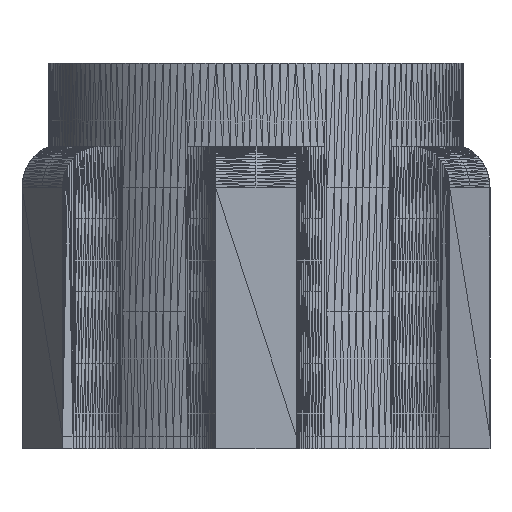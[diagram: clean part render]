
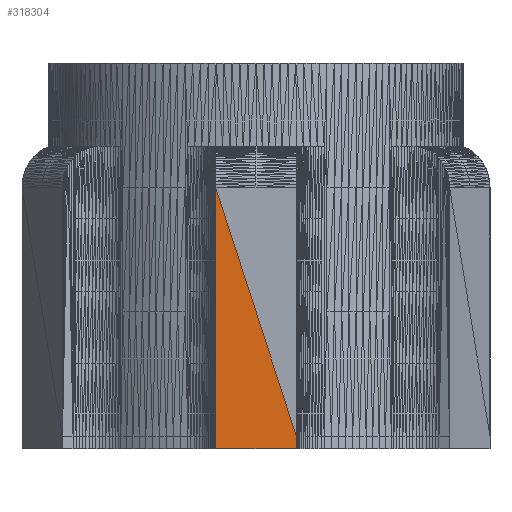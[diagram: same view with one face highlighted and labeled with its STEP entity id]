
A CAD part, left-side view. The second image highlights one B-rep face of the part: STEP entity #318304.
In plain terms, the highlighted planar face has unit normal (-1, 0, 0).
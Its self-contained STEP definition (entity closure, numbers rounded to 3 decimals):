
#734=PLANE('',#347054);
#29460=FACE_OUTER_BOUND('',#58190,.T.);
#58190=EDGE_LOOP('',(#233523,#233524,#233525,#233526,#233527));
#86962=LINE('',#477429,#130306);
#87863=LINE('',#479231,#131207);
#87873=LINE('',#479250,#131217);
#87880=LINE('',#479265,#131224);
#87881=LINE('',#479266,#131225);
#130306=VECTOR('',#376359,10.);
#131207=VECTOR('',#378154,10.);
#131217=VECTOR('',#378174,10.);
#131224=VECTOR('',#378189,10.);
#131225=VECTOR('',#378190,10.);
#173417=VERTEX_POINT('',#477426);
#173418=VERTEX_POINT('',#477428);
#173868=VERTEX_POINT('',#479218);
#173872=VERTEX_POINT('',#479229);
#173880=VERTEX_POINT('',#479264);
#188298=EDGE_CURVE('',#173417,#173418,#86962,.T.);
#189199=EDGE_CURVE('',#173872,#173868,#87863,.T.);
#189209=EDGE_CURVE('',#173872,#173418,#87873,.T.);
#189216=EDGE_CURVE('',#173880,#173868,#87880,.T.);
#189217=EDGE_CURVE('',#173880,#173417,#87881,.T.);
#233523=ORIENTED_EDGE('',*,*,#189216,.T.);
#233524=ORIENTED_EDGE('',*,*,#189199,.F.);
#233525=ORIENTED_EDGE('',*,*,#189209,.T.);
#233526=ORIENTED_EDGE('',*,*,#188298,.F.);
#233527=ORIENTED_EDGE('',*,*,#189217,.F.);
#318304=ADVANCED_FACE('',(#29460),#734,.T.);
#347054=AXIS2_PLACEMENT_3D('',#479263,#378187,#378188);
#376359=DIRECTION('',(0.,1.,0.));
#378154=DIRECTION('',(0.,0.,1.));
#378174=DIRECTION('',(0.,0.,-1.));
#378187=DIRECTION('center_axis',(-1.,0.,0.));
#378188=DIRECTION('ref_axis',(0.,0.,1.));
#378189=DIRECTION('',(0.,0.31,0.951));
#378190=DIRECTION('',(0.,0.,-1.));
#477426=CARTESIAN_POINT('',(-11.921,-1.953,-5.6));
#477428=CARTESIAN_POINT('',(-11.921,1.953,-5.6));
#477429=CARTESIAN_POINT('',(-11.921,-1.953,-5.6));
#479218=CARTESIAN_POINT('',(-11.921,1.953,7.));
#479229=CARTESIAN_POINT('',(-11.921,1.953,-5.));
#479231=CARTESIAN_POINT('',(-11.921,1.953,-5.));
#479250=CARTESIAN_POINT('',(-11.921,1.953,-5.));
#479263=CARTESIAN_POINT('Origin',(-11.921,1.953,-5.));
#479264=CARTESIAN_POINT('',(-11.921,-1.953,-5.));
#479265=CARTESIAN_POINT('',(-11.921,-1.953,-5.));
#479266=CARTESIAN_POINT('',(-11.921,-1.953,-5.));
